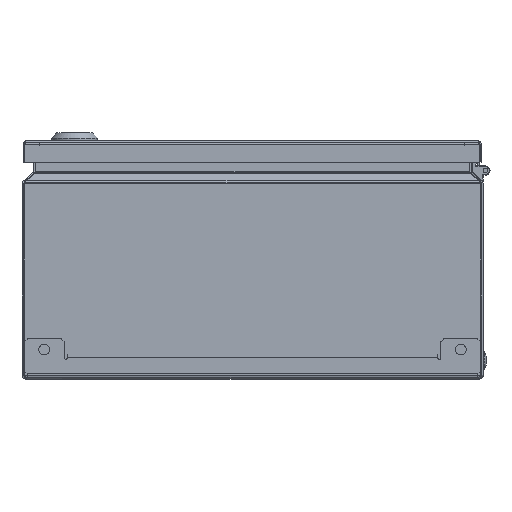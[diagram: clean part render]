
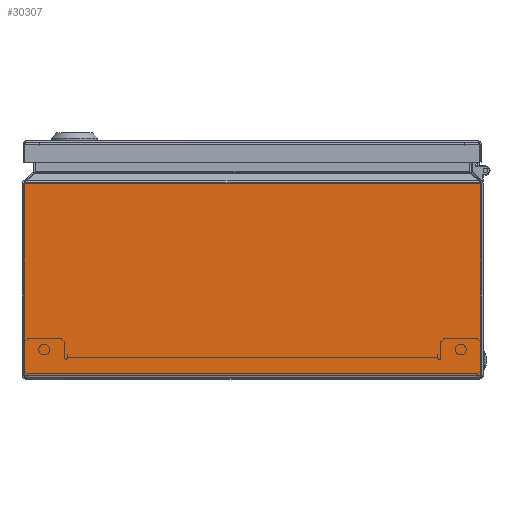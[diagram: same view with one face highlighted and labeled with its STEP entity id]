
A CAD part, left-side view. The second image highlights one B-rep face of the part: STEP entity #30307.
In plain terms, the highlighted planar face has unit normal (-1, 0, 0).
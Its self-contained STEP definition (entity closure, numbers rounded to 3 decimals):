
#1399 = DIRECTION ( 'NONE',  ( 1., 0., 0. ) ) ;
#2514 = CARTESIAN_POINT ( 'NONE',  ( -300., -3150., 127.119 ) ) ;
#3297 = ORIENTED_EDGE ( 'NONE', *, *, #43829, .T. ) ;
#5224 = ORIENTED_EDGE ( 'NONE', *, *, #48996, .T. ) ;
#7606 = LINE ( 'NONE', #41555, #18974 ) ;
#8528 = VERTEX_POINT ( 'NONE', #15423 ) ;
#11186 = LINE ( 'NONE', #45111, #85639 ) ;
#14666 = CARTESIAN_POINT ( 'NONE',  ( -300., -3150., 2.4 ) ) ;
#15423 = CARTESIAN_POINT ( 'NONE',  ( -300., 148.6, 127.119 ) ) ;
#18974 = VECTOR ( 'NONE', #81572, 1000. ) ;
#19764 = DIRECTION ( 'NONE',  ( 0., 0., -1. ) ) ;
#22576 = VECTOR ( 'NONE', #109121, 1000. ) ;
#24792 = PLANE ( 'NONE',  #91381 ) ;
#28543 = VERTEX_POINT ( 'NONE', #47893 ) ;
#29012 = EDGE_LOOP ( 'NONE', ( #5224, #33127, #47715, #3297 ) ) ;
#30307 = ADVANCED_FACE ( 'NONE', ( #68670 ), #24792, .F. ) ;
#33127 = ORIENTED_EDGE ( 'NONE', *, *, #82804, .F. ) ;
#37976 = LINE ( 'NONE', #88490, #69017 ) ;
#41555 = CARTESIAN_POINT ( 'NONE',  ( -300., -148.6, 127.119 ) ) ;
#42928 = DIRECTION ( 'NONE',  ( 0., 1., 0. ) ) ;
#43829 = EDGE_CURVE ( 'NONE', #107709, #8528, #11186, .T. ) ;
#44706 = VERTEX_POINT ( 'NONE', #95691 ) ;
#45111 = CARTESIAN_POINT ( 'NONE',  ( -300., -3150., 127.119 ) ) ;
#47715 = ORIENTED_EDGE ( 'NONE', *, *, #70655, .F. ) ;
#47893 = CARTESIAN_POINT ( 'NONE',  ( -300., 148.6, 2.4 ) ) ;
#48996 = EDGE_CURVE ( 'NONE', #8528, #28543, #37976, .T. ) ;
#68670 = FACE_OUTER_BOUND ( 'NONE', #29012, .T. ) ;
#69017 = VECTOR ( 'NONE', #98515, 1000. ) ;
#70010 = CARTESIAN_POINT ( 'NONE',  ( -300., -148.6, 127.119 ) ) ;
#70655 = EDGE_CURVE ( 'NONE', #107709, #44706, #7606, .T. ) ;
#81572 = DIRECTION ( 'NONE',  ( 0., 0., -1. ) ) ;
#82804 = EDGE_CURVE ( 'NONE', #44706, #28543, #90259, .T. ) ;
#85639 = VECTOR ( 'NONE', #42928, 1000. ) ;
#88490 = CARTESIAN_POINT ( 'NONE',  ( -300., 148.6, 127.119 ) ) ;
#90259 = LINE ( 'NONE', #14666, #22576 ) ;
#91381 = AXIS2_PLACEMENT_3D ( 'NONE', #2514, #1399, #19764 ) ;
#95691 = CARTESIAN_POINT ( 'NONE',  ( -300., -148.6, 2.4 ) ) ;
#98515 = DIRECTION ( 'NONE',  ( 0., 0., -1. ) ) ;
#107709 = VERTEX_POINT ( 'NONE', #70010 ) ;
#109121 = DIRECTION ( 'NONE',  ( 0., 1., 0. ) ) ;
